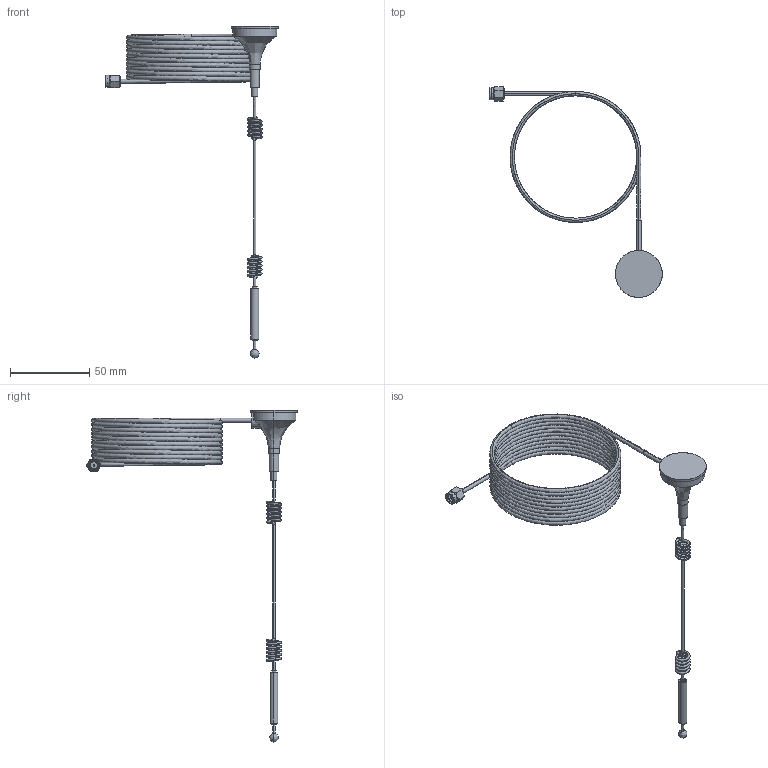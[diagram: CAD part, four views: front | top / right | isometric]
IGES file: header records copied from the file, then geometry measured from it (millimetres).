
Start section: SolidWorks IGES file using analytic representation for surfaces
Global section: file name: C:\Salvar\Planos Compartidos\Haiwell\Antena 4G.IGS; native system: SolidWorks 2021; preprocessor: SolidWorks 2021; author: osval; date: 220118.135735; units: millimetre
Bounding box: 109.14 x 133.42 x 210 mm (x, y, z)
Surface area: 28932.9 mm2 (no closed solid volume)
Topology: 0 solids, 0 shells, 104 faces, 1557 edges, 1555 vertices
Faces by surface type: bspline 53, revolution 51
